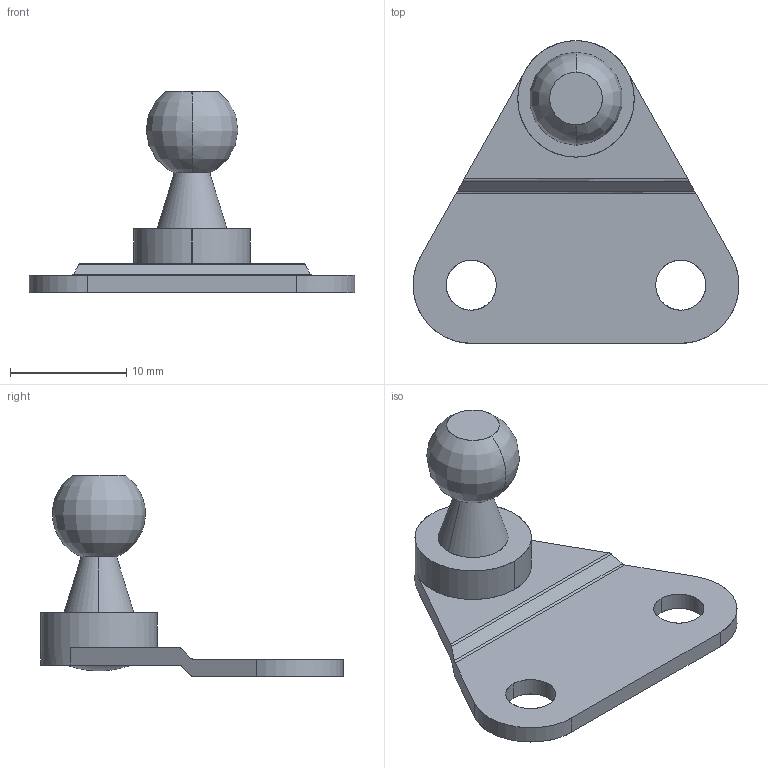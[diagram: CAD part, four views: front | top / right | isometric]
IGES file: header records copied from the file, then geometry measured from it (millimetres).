
Start section: SolidWorks IGES file using analytic representation for surfaces
Bounding box: 28 x 26 x 17.3 mm (x, y, z)
Surface area: 1449.4 mm2 (no closed solid volume)
Topology: 0 solids, 0 shells, 29 faces, 514 edges, 513 vertices
Faces by surface type: revolution 18, bspline 11
